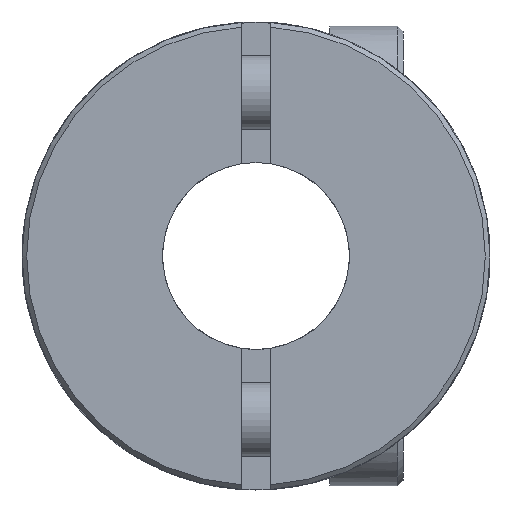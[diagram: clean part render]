
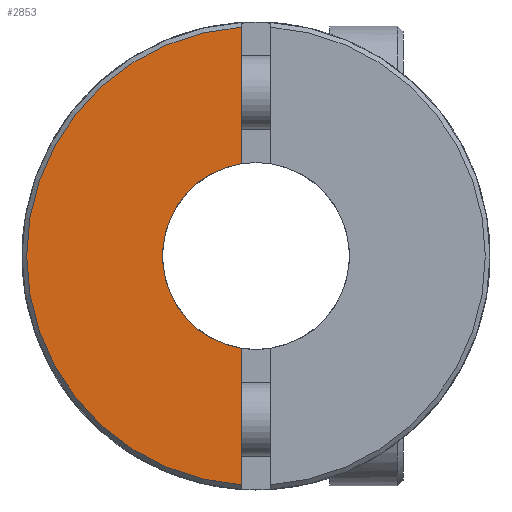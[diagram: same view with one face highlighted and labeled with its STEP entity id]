
A CAD part, front view. The second image highlights one B-rep face of the part: STEP entity #2853.
In plain terms, the highlighted planar face has unit normal (0, -1, 0).
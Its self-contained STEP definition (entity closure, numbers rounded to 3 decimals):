
#1=DIRECTION('',(0.,0.,-1.));
#2=VECTOR('',#1,4.639);
#3=CARTESIAN_POINT('',(-0.5,-10.15,7.774));
#4=LINE('',#3,#2);
#5=DIRECTION('',(0.,0.,-1.));
#6=VECTOR('',#5,4.639);
#7=CARTESIAN_POINT('',(-0.5,-10.15,-3.135));
#8=LINE('',#7,#6);
#72=CARTESIAN_POINT('',(0.,-10.15,0.));
#73=DIRECTION('',(0.,1.,0.));
#74=DIRECTION('',(-0.157,0.,-0.988));
#75=AXIS2_PLACEMENT_3D('',#72,#73,#74);
#1988=CARTESIAN_POINT('',(0.,-10.15,0.));
#1989=DIRECTION('',(0.,-1.,0.));
#1990=DIRECTION('',(-0.064,0.,0.998));
#1991=AXIS2_PLACEMENT_3D('',#1988,#1989,#1990);
#2584=CARTESIAN_POINT('',(-0.5,-10.15,7.774));
#2585=CARTESIAN_POINT('',(-0.5,-10.15,3.135));
#2586=VERTEX_POINT('',#2584);
#2587=VERTEX_POINT('',#2585);
#2588=CARTESIAN_POINT('',(-0.5,-10.15,-3.135));
#2589=CARTESIAN_POINT('',(-0.5,-10.15,-7.774));
#2590=VERTEX_POINT('',#2588);
#2591=VERTEX_POINT('',#2589);
#2838=CARTESIAN_POINT('',(0.,-10.15,0.));
#2839=DIRECTION('',(0.,1.,0.));
#2840=DIRECTION('',(1.,0.,0.));
#2841=AXIS2_PLACEMENT_3D('',#2838,#2839,#2840);
#2842=PLANE('',#2841);
#2844=ORIENTED_EDGE('',*,*,#2843,.T.);
#2846=ORIENTED_EDGE('',*,*,#2845,.F.);
#2848=ORIENTED_EDGE('',*,*,#2847,.T.);
#2850=ORIENTED_EDGE('',*,*,#2849,.F.);
#2851=EDGE_LOOP('',(#2844,#2846,#2848,#2850));
#2852=FACE_OUTER_BOUND('',#2851,.F.);
#2853=ADVANCED_FACE('',(#2852),#2842,.F.);
#76=CIRCLE('',#75,3.175);
#1992=CIRCLE('',#1991,7.79);
#2843=EDGE_CURVE('',#2586,#2587,#4,.T.);
#2845=EDGE_CURVE('',#2590,#2587,#76,.T.);
#2847=EDGE_CURVE('',#2590,#2591,#8,.T.);
#2849=EDGE_CURVE('',#2586,#2591,#1992,.T.);
